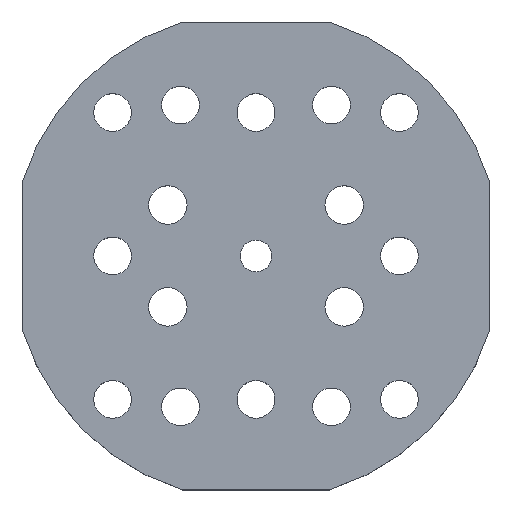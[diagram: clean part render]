
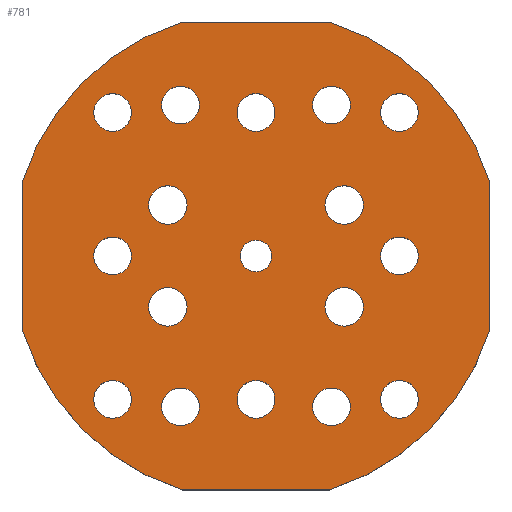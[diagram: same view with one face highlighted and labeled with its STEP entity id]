
A CAD part, top view. The second image highlights one B-rep face of the part: STEP entity #781.
In plain terms, the highlighted planar face has unit normal (0, 0, 1).
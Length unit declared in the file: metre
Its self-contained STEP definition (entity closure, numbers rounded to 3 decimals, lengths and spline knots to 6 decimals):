
#22=LINE('',#1323,#38);
#27=LINE('',#1339,#43);
#31=LINE('',#1353,#47);
#35=LINE('',#1367,#51);
#38=VECTOR('',#990,1.);
#43=VECTOR('',#1005,1.);
#47=VECTOR('',#1019,1.);
#51=VECTOR('',#1033,1.);
#56=PLANE('',#869);
#146=ORIENTED_EDGE('',*,*,#326,.T.);
#147=ORIENTED_EDGE('',*,*,#284,.T.);
#148=ORIENTED_EDGE('',*,*,#327,.T.);
#149=ORIENTED_EDGE('',*,*,#328,.T.);
#150=ORIENTED_EDGE('',*,*,#329,.T.);
#151=ORIENTED_EDGE('',*,*,#330,.T.);
#152=ORIENTED_EDGE('',*,*,#331,.T.);
#153=ORIENTED_EDGE('',*,*,#332,.T.);
#154=ORIENTED_EDGE('',*,*,#333,.T.);
#155=ORIENTED_EDGE('',*,*,#278,.T.);
#156=ORIENTED_EDGE('',*,*,#272,.T.);
#157=ORIENTED_EDGE('',*,*,#266,.T.);
#158=ORIENTED_EDGE('',*,*,#334,.T.);
#159=ORIENTED_EDGE('',*,*,#301,.F.);
#160=ORIENTED_EDGE('',*,*,#305,.T.);
#161=ORIENTED_EDGE('',*,*,#309,.T.);
#162=ORIENTED_EDGE('',*,*,#312,.T.);
#163=ORIENTED_EDGE('',*,*,#316,.F.);
#164=ORIENTED_EDGE('',*,*,#319,.T.);
#165=ORIENTED_EDGE('',*,*,#323,.T.);
#166=ORIENTED_EDGE('',*,*,#325,.T.);
#167=ORIENTED_EDGE('',*,*,#294,.F.);
#168=ORIENTED_EDGE('',*,*,#292,.F.);
#169=ORIENTED_EDGE('',*,*,#290,.F.);
#170=ORIENTED_EDGE('',*,*,#296,.F.);
#266=EDGE_CURVE('',#360,#360,#438,.F.);
#272=EDGE_CURVE('',#366,#366,#440,.F.);
#278=EDGE_CURVE('',#372,#372,#442,.F.);
#284=EDGE_CURVE('',#378,#378,#444,.F.);
#290=EDGE_CURVE('',#384,#384,#446,.T.);
#292=EDGE_CURVE('',#386,#386,#448,.T.);
#294=EDGE_CURVE('',#388,#388,#450,.T.);
#296=EDGE_CURVE('',#390,#390,#452,.T.);
#301=EDGE_CURVE('',#395,#396,#22,.T.);
#305=EDGE_CURVE('',#395,#398,#456,.T.);
#309=EDGE_CURVE('',#398,#401,#27,.T.);
#312=EDGE_CURVE('',#401,#403,#459,.T.);
#316=EDGE_CURVE('',#406,#403,#31,.T.);
#319=EDGE_CURVE('',#406,#408,#462,.T.);
#323=EDGE_CURVE('',#408,#411,#35,.T.);
#325=EDGE_CURVE('',#411,#396,#465,.T.);
#326=EDGE_CURVE('',#412,#412,#466,.F.);
#327=EDGE_CURVE('',#413,#413,#467,.F.);
#328=EDGE_CURVE('',#414,#414,#468,.F.);
#329=EDGE_CURVE('',#415,#415,#469,.F.);
#330=EDGE_CURVE('',#416,#416,#470,.F.);
#331=EDGE_CURVE('',#417,#417,#471,.F.);
#332=EDGE_CURVE('',#418,#418,#472,.F.);
#333=EDGE_CURVE('',#419,#419,#473,.F.);
#334=EDGE_CURVE('',#420,#420,#474,.F.);
#360=VERTEX_POINT('',#1173);
#366=VERTEX_POINT('',#1204);
#372=VERTEX_POINT('',#1235);
#378=VERTEX_POINT('',#1266);
#384=VERTEX_POINT('',#1297);
#386=VERTEX_POINT('',#1302);
#388=VERTEX_POINT('',#1307);
#390=VERTEX_POINT('',#1312);
#395=VERTEX_POINT('',#1322);
#396=VERTEX_POINT('',#1324);
#398=VERTEX_POINT('',#1330);
#401=VERTEX_POINT('',#1338);
#403=VERTEX_POINT('',#1344);
#406=VERTEX_POINT('',#1352);
#408=VERTEX_POINT('',#1358);
#411=VERTEX_POINT('',#1366);
#412=VERTEX_POINT('',#1373);
#413=VERTEX_POINT('',#1375);
#414=VERTEX_POINT('',#1377);
#415=VERTEX_POINT('',#1379);
#416=VERTEX_POINT('',#1381);
#417=VERTEX_POINT('',#1383);
#418=VERTEX_POINT('',#1385);
#419=VERTEX_POINT('',#1387);
#420=VERTEX_POINT('',#1389);
#438=CIRCLE('',#826,0.0025);
#440=CIRCLE('',#829,0.0025);
#442=CIRCLE('',#832,0.0025);
#444=CIRCLE('',#835,0.0025);
#446=CIRCLE('',#838,0.00255);
#448=CIRCLE('',#841,0.00255);
#450=CIRCLE('',#844,0.00255);
#452=CIRCLE('',#847,0.00255);
#456=CIRCLE('',#853,0.0325);
#459=CIRCLE('',#858,0.0325);
#462=CIRCLE('',#863,0.0325);
#465=CIRCLE('',#868,0.0325);
#466=CIRCLE('',#870,0.0021);
#467=CIRCLE('',#871,0.0025);
#468=CIRCLE('',#872,0.0025);
#469=CIRCLE('',#873,0.0025);
#470=CIRCLE('',#874,0.0025);
#471=CIRCLE('',#875,0.0025);
#472=CIRCLE('',#876,0.0025);
#473=CIRCLE('',#877,0.0025);
#474=CIRCLE('',#878,0.0025);
#532=EDGE_LOOP('',(#146));
#533=EDGE_LOOP('',(#147));
#534=EDGE_LOOP('',(#148));
#535=EDGE_LOOP('',(#149));
#536=EDGE_LOOP('',(#150));
#537=EDGE_LOOP('',(#151));
#538=EDGE_LOOP('',(#152));
#539=EDGE_LOOP('',(#153));
#540=EDGE_LOOP('',(#154));
#541=EDGE_LOOP('',(#155));
#542=EDGE_LOOP('',(#156));
#543=EDGE_LOOP('',(#157));
#544=EDGE_LOOP('',(#158));
#545=EDGE_LOOP('',(#159,#160,#161,#162,#163,#164,#165,#166));
#546=EDGE_LOOP('',(#167));
#547=EDGE_LOOP('',(#168));
#548=EDGE_LOOP('',(#169));
#549=EDGE_LOOP('',(#170));
#650=FACE_BOUND('',#532,.T.);
#651=FACE_BOUND('',#533,.T.);
#652=FACE_BOUND('',#534,.T.);
#653=FACE_BOUND('',#535,.T.);
#654=FACE_BOUND('',#536,.T.);
#655=FACE_BOUND('',#537,.T.);
#656=FACE_BOUND('',#538,.T.);
#657=FACE_BOUND('',#539,.T.);
#658=FACE_BOUND('',#540,.T.);
#659=FACE_BOUND('',#541,.T.);
#660=FACE_BOUND('',#542,.T.);
#661=FACE_BOUND('',#543,.T.);
#662=FACE_BOUND('',#544,.T.);
#663=FACE_BOUND('',#545,.T.);
#664=FACE_BOUND('',#546,.T.);
#665=FACE_BOUND('',#547,.T.);
#666=FACE_BOUND('',#548,.T.);
#667=FACE_BOUND('',#549,.T.);
#781=ADVANCED_FACE('',(#650,#651,#652,#653,#654,#655,#656,#657,#658,#659,
#660,#661,#662,#663,#664,#665,#666,#667),#56,.T.);
#826=AXIS2_PLACEMENT_3D('',#1172,#938,#939);
#829=AXIS2_PLACEMENT_3D('',#1203,#944,#945);
#832=AXIS2_PLACEMENT_3D('',#1234,#950,#951);
#835=AXIS2_PLACEMENT_3D('',#1265,#956,#957);
#838=AXIS2_PLACEMENT_3D('',#1296,#962,#963);
#841=AXIS2_PLACEMENT_3D('',#1301,#968,#969);
#844=AXIS2_PLACEMENT_3D('',#1306,#974,#975);
#847=AXIS2_PLACEMENT_3D('',#1311,#980,#981);
#853=AXIS2_PLACEMENT_3D('',#1331,#997,#998);
#858=AXIS2_PLACEMENT_3D('',#1345,#1011,#1012);
#863=AXIS2_PLACEMENT_3D('',#1359,#1025,#1026);
#868=AXIS2_PLACEMENT_3D('',#1370,#1038,#1039);
#869=AXIS2_PLACEMENT_3D('',#1371,#1040,#1041);
#870=AXIS2_PLACEMENT_3D('',#1372,#1042,#1043);
#871=AXIS2_PLACEMENT_3D('',#1374,#1044,#1045);
#872=AXIS2_PLACEMENT_3D('',#1376,#1046,#1047);
#873=AXIS2_PLACEMENT_3D('',#1378,#1048,#1049);
#874=AXIS2_PLACEMENT_3D('',#1380,#1050,#1051);
#875=AXIS2_PLACEMENT_3D('',#1382,#1052,#1053);
#876=AXIS2_PLACEMENT_3D('',#1384,#1054,#1055);
#877=AXIS2_PLACEMENT_3D('',#1386,#1056,#1057);
#878=AXIS2_PLACEMENT_3D('',#1388,#1058,#1059);
#938=DIRECTION('',(0.,0.,1.));
#939=DIRECTION('',(1.,0.,0.));
#944=DIRECTION('',(0.,0.,1.));
#945=DIRECTION('',(1.,0.,0.));
#950=DIRECTION('',(0.,0.,1.));
#951=DIRECTION('',(1.,0.,0.));
#956=DIRECTION('',(0.,0.,1.));
#957=DIRECTION('',(1.,0.,0.));
#962=DIRECTION('',(0.,0.,1.));
#963=DIRECTION('',(1.,0.,0.));
#968=DIRECTION('',(0.,0.,1.));
#969=DIRECTION('',(1.,0.,0.));
#974=DIRECTION('',(0.,0.,1.));
#975=DIRECTION('',(1.,0.,0.));
#980=DIRECTION('',(0.,0.,1.));
#981=DIRECTION('',(1.,0.,0.));
#990=DIRECTION('',(1.,0.,0.));
#997=DIRECTION('',(0.,0.,1.));
#998=DIRECTION('',(1.,0.,0.));
#1005=DIRECTION('',(0.,-1.,0.));
#1011=DIRECTION('',(0.,0.,1.));
#1012=DIRECTION('',(1.,0.,0.));
#1019=DIRECTION('',(-1.,0.,0.));
#1025=DIRECTION('',(0.,0.,1.));
#1026=DIRECTION('',(1.,0.,0.));
#1033=DIRECTION('',(0.,1.,0.));
#1038=DIRECTION('',(0.,0.,1.));
#1039=DIRECTION('',(1.,0.,0.));
#1040=DIRECTION('',(0.,0.,1.));
#1041=DIRECTION('',(1.,0.,0.));
#1042=DIRECTION('',(0.,0.,1.));
#1043=DIRECTION('',(1.,0.,0.));
#1044=DIRECTION('',(0.,0.,1.));
#1045=DIRECTION('',(1.,0.,0.));
#1046=DIRECTION('',(0.,0.,1.));
#1047=DIRECTION('',(1.,0.,0.));
#1048=DIRECTION('',(0.,0.,1.));
#1049=DIRECTION('',(1.,0.,0.));
#1050=DIRECTION('',(0.,0.,1.));
#1051=DIRECTION('',(1.,0.,0.));
#1052=DIRECTION('',(0.,0.,1.));
#1053=DIRECTION('',(1.,0.,0.));
#1054=DIRECTION('',(0.,0.,1.));
#1055=DIRECTION('',(1.,0.,0.));
#1056=DIRECTION('',(0.,0.,1.));
#1057=DIRECTION('',(1.,0.,0.));
#1058=DIRECTION('',(0.,0.,1.));
#1059=DIRECTION('',(1.,0.,0.));
#1172=CARTESIAN_POINT('',(0.,-0.019,0.008));
#1173=CARTESIAN_POINT('',(0.0025,-0.019,0.008));
#1203=CARTESIAN_POINT('',(0.,0.019,0.008));
#1204=CARTESIAN_POINT('',(0.0025,0.019,0.008));
#1234=CARTESIAN_POINT('',(0.019,0.,0.008));
#1235=CARTESIAN_POINT('',(0.0215,0.,0.008));
#1265=CARTESIAN_POINT('',(-0.019,0.,0.008));
#1266=CARTESIAN_POINT('',(-0.0165,0.,0.008));
#1296=CARTESIAN_POINT('',(0.011691,-0.00675,0.008));
#1297=CARTESIAN_POINT('',(0.014241,-0.00675,0.008));
#1301=CARTESIAN_POINT('',(-0.011691,-0.00675,0.008));
#1302=CARTESIAN_POINT('',(-0.009141,-0.00675,0.008));
#1306=CARTESIAN_POINT('',(-0.011691,0.00675,0.008));
#1307=CARTESIAN_POINT('',(-0.009141,0.00675,0.008));
#1311=CARTESIAN_POINT('',(0.011691,0.00675,0.008));
#1312=CARTESIAN_POINT('',(0.014241,0.00675,0.008));
#1322=CARTESIAN_POINT('',(-0.00976,0.031,0.008));
#1323=CARTESIAN_POINT('',(0.,0.031,0.008));
#1324=CARTESIAN_POINT('',(0.00976,0.031,0.008));
#1330=CARTESIAN_POINT('',(-0.031,0.00976,0.008));
#1331=CARTESIAN_POINT('',(0.,0.,0.008));
#1338=CARTESIAN_POINT('',(-0.031,-0.00976,0.008));
#1339=CARTESIAN_POINT('',(-0.031,0.,0.008));
#1344=CARTESIAN_POINT('',(-0.00976,-0.031,0.008));
#1345=CARTESIAN_POINT('',(0.,0.,0.008));
#1352=CARTESIAN_POINT('',(0.00976,-0.031,0.008));
#1353=CARTESIAN_POINT('',(0.,-0.031,0.008));
#1358=CARTESIAN_POINT('',(0.031,-0.00976,0.008));
#1359=CARTESIAN_POINT('',(0.,0.,0.008));
#1366=CARTESIAN_POINT('',(0.031,0.00976,0.008));
#1367=CARTESIAN_POINT('',(0.031,0.,0.008));
#1370=CARTESIAN_POINT('',(0.,0.,0.008));
#1371=CARTESIAN_POINT('',(0.,0.,0.008));
#1372=CARTESIAN_POINT('',(0.,0.,0.008));
#1373=CARTESIAN_POINT('',(0.0021,0.,0.008));
#1374=CARTESIAN_POINT('',(-0.019,0.019,0.008));
#1375=CARTESIAN_POINT('',(-0.0165,0.019,0.008));
#1376=CARTESIAN_POINT('',(-0.01,0.02,0.008));
#1377=CARTESIAN_POINT('',(-0.0075,0.02,0.008));
#1378=CARTESIAN_POINT('',(0.01,0.02,0.008));
#1379=CARTESIAN_POINT('',(0.0125,0.02,0.008));
#1380=CARTESIAN_POINT('',(0.019,0.019,0.008));
#1381=CARTESIAN_POINT('',(0.0215,0.019,0.008));
#1382=CARTESIAN_POINT('',(0.019,-0.019,0.008));
#1383=CARTESIAN_POINT('',(0.0215,-0.019,0.008));
#1384=CARTESIAN_POINT('',(0.01,-0.02,0.008));
#1385=CARTESIAN_POINT('',(0.0125,-0.02,0.008));
#1386=CARTESIAN_POINT('',(-0.01,-0.02,0.008));
#1387=CARTESIAN_POINT('',(-0.0075,-0.02,0.008));
#1388=CARTESIAN_POINT('',(-0.019,-0.019,0.008));
#1389=CARTESIAN_POINT('',(-0.0165,-0.019,0.008));
